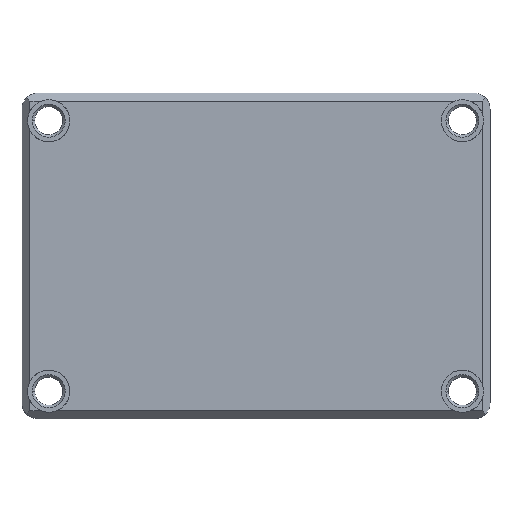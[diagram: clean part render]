
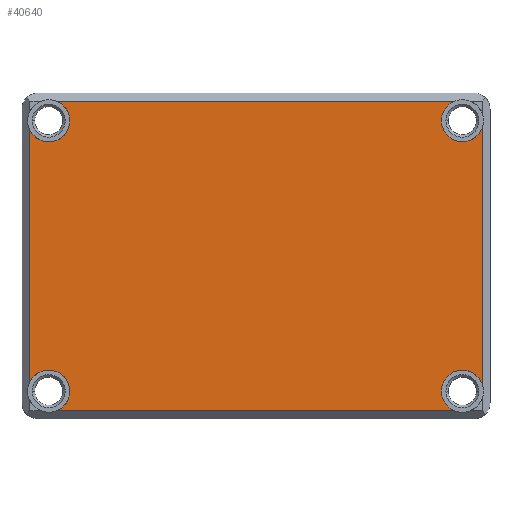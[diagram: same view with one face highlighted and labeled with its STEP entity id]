
A CAD part, top view. The second image highlights one B-rep face of the part: STEP entity #40640.
In plain terms, the highlighted planar face has unit normal (0, 0, 1).
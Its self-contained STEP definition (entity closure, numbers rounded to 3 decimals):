
#2170=CARTESIAN_POINT('',(36.519,25.4,12.386));
#2180=DIRECTION('',(0.,0.,1.));
#2190=DIRECTION('',(1.,0.,0.));
#2200=AXIS2_PLACEMENT_3D('',#2170,#2180,#2190);
#2210=PLANE('',#2200);
#2220=CARTESIAN_POINT('',(3.81,46.99,12.386));
#2230=DIRECTION('',(0.,0.,1.));
#2240=DIRECTION('',(1.,0.,0.));
#2250=AXIS2_PLACEMENT_3D('',#2220,#2230,#2240);
#2260=CIRCLE('',#2250,3.366);
#2330=CARTESIAN_POINT('',(0.813,25.4,12.386));
#2340=DIRECTION('',(0.,1.,0.));
#2350=VECTOR('',#2340,1.);
#2360=LINE('',#2330,#2350);
#2410=CARTESIAN_POINT('',(69.418,50.127,12.386));
#2420=DIRECTION('',(-1.,0.,0.));
#2430=VECTOR('',#2420,1.);
#2440=LINE('',#2410,#2430);
#29960=CARTESIAN_POINT('',(72.987,9.639,12.386));
#29970=DIRECTION('',(0.,1.,0.));
#29980=VECTOR('',#29970,1.);
#29990=LINE('',#29960,#29980);
#30130=CARTESIAN_POINT('',(72.987,5.029,12.386));
#30140=VERTEX_POINT('',#30130);
#30170=CARTESIAN_POINT('',(72.987,45.771,12.386));
#30180=VERTEX_POINT('',#30170);
#30190=EDGE_CURVE('',#30140,#30180,#29990,.T.);
#30790=CARTESIAN_POINT('',(36.519,0.673,12.386));
#30800=DIRECTION('',(1.,0.,0.));
#30810=VECTOR('',#30800,1.);
#30820=LINE('',#30790,#30810);
#30920=CARTESIAN_POINT('',(5.029,0.673,12.386));
#30930=VERTEX_POINT('',#30920);
#30960=CARTESIAN_POINT('',(68.631,0.673,12.386));
#30970=VERTEX_POINT('',#30960);
#30980=EDGE_CURVE('',#30930,#30970,#30820,.T.);
#31280=CARTESIAN_POINT('',(0.813,45.459,12.386
));
#31290=VERTEX_POINT('',#31280);
#31320=CARTESIAN_POINT('',(0.813,5.341,12.386
));
#31330=VERTEX_POINT('',#31320);
#31340=EDGE_CURVE('',#31330,#31290,#2360,.T.);
#34770=CARTESIAN_POINT('',(68.631,50.127,12.386));
#34780=VERTEX_POINT('',#34770);
#34810=CARTESIAN_POINT('',(5.029,50.127,12.386));
#34820=VERTEX_POINT('',#34810);
#34830=EDGE_CURVE('',#34780,#34820,#2440,.T.);
#39390=CARTESIAN_POINT('',(3.81,3.81,12.386));
#39400=DIRECTION('',(0.,0.,1.));
#39410=DIRECTION('',(1.,0.,0.));
#39420=AXIS2_PLACEMENT_3D('',#39390,#39400,#39410);
#39430=CIRCLE('',#39420,3.366);
#39940=CARTESIAN_POINT('',(7.176,3.81,12.386));
#39950=VERTEX_POINT('',#39940);
#39980=EDGE_CURVE('',#30930,#39950,#39430,.T.);
#40150=CARTESIAN_POINT('',(69.85,46.99,12.386));
#40160=DIRECTION('',(0.,0.,1.));
#40170=DIRECTION('',(1.,0.,0.));
#40180=AXIS2_PLACEMENT_3D('',#40150,#40160,#40170);
#40190=CIRCLE('',#40180,3.366);
#40270=CARTESIAN_POINT('',(69.85,3.81,12.386));
#40280=DIRECTION('',(0.,0.,1.));
#40290=DIRECTION('',(1.,0.,0.));
#40300=AXIS2_PLACEMENT_3D('',#40270,#40280,#40290);
#40310=CIRCLE('',#40300,3.366);
#40370=ORIENTED_EDGE('',*,*,#30980,.T.);
#40380=ORIENTED_EDGE('',*,*,#39980,.F.);
#40390=EDGE_CURVE('',#39950,#31330,#39430,.T.);
#40400=ORIENTED_EDGE('',*,*,#40390,.F.);
#40410=ORIENTED_EDGE('',*,*,#31340,.F.);
#40420=CARTESIAN_POINT('',(7.176,46.99,12.386));
#40430=VERTEX_POINT('',#40420);
#40440=EDGE_CURVE('',#31290,#40430,#2260,.T.);
#40450=ORIENTED_EDGE('',*,*,#40440,.F.);
#40460=EDGE_CURVE('',#40430,#34820,#2260,.T.);
#40470=ORIENTED_EDGE('',*,*,#40460,.F.);
#40480=ORIENTED_EDGE('',*,*,#34830,.T.);
#40490=CARTESIAN_POINT('',(66.485,46.99,12.386));
#40500=VERTEX_POINT('',#40490);
#40510=EDGE_CURVE('',#34780,#40500,#40190,.T.);
#40520=ORIENTED_EDGE('',*,*,#40510,.F.);
#40530=EDGE_CURVE('',#40500,#30180,#40190,.T.);
#40540=ORIENTED_EDGE('',*,*,#40530,.F.);
#40550=ORIENTED_EDGE('',*,*,#30190,.T.);
#40560=CARTESIAN_POINT('',(66.485,3.81,12.386));
#40570=VERTEX_POINT('',#40560);
#40580=EDGE_CURVE('',#30140,#40570,#40310,.T.);
#40590=ORIENTED_EDGE('',*,*,#40580,.F.);
#40600=EDGE_CURVE('',#40570,#30970,#40310,.T.);
#40610=ORIENTED_EDGE('',*,*,#40600,.F.);
#40620=EDGE_LOOP('',(#40610,#40590,#40550,#40540,#40520,#40480,#40470,
#40450,#40410,#40400,#40380,#40370));
#40630=FACE_OUTER_BOUND('',#40620,.T.);
#40640=ADVANCED_FACE('',(#40630),#2210,.T.);
